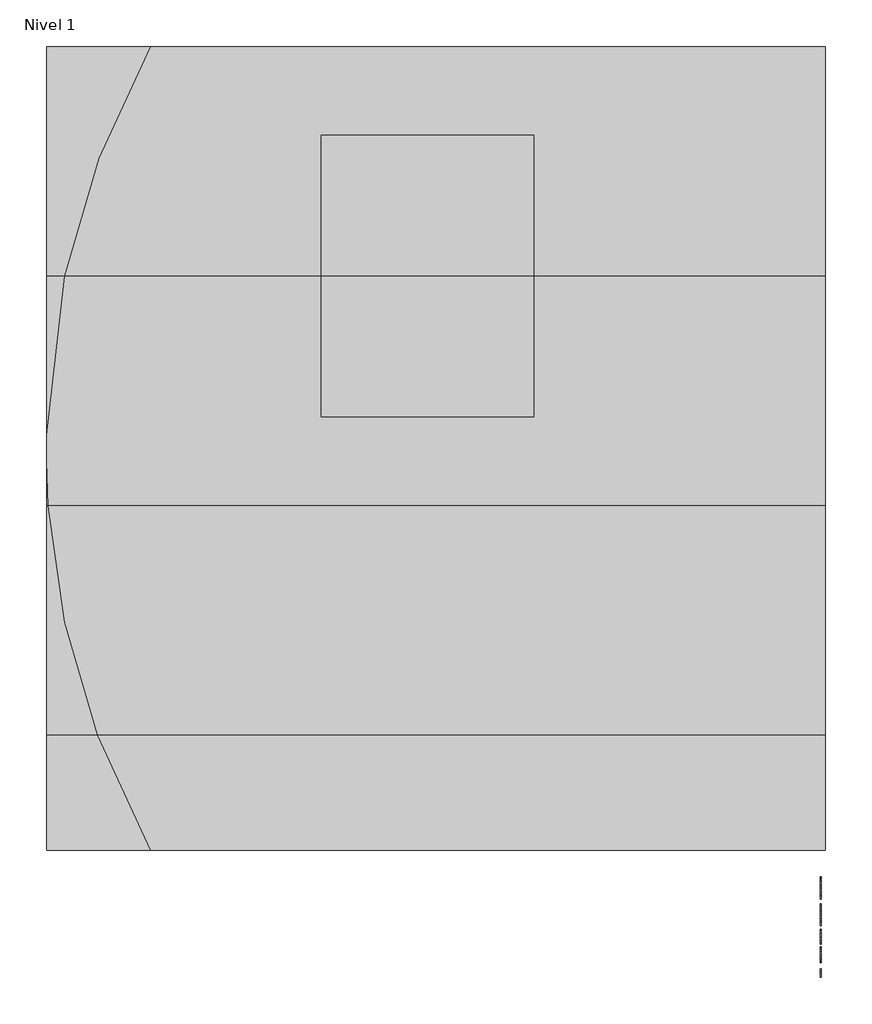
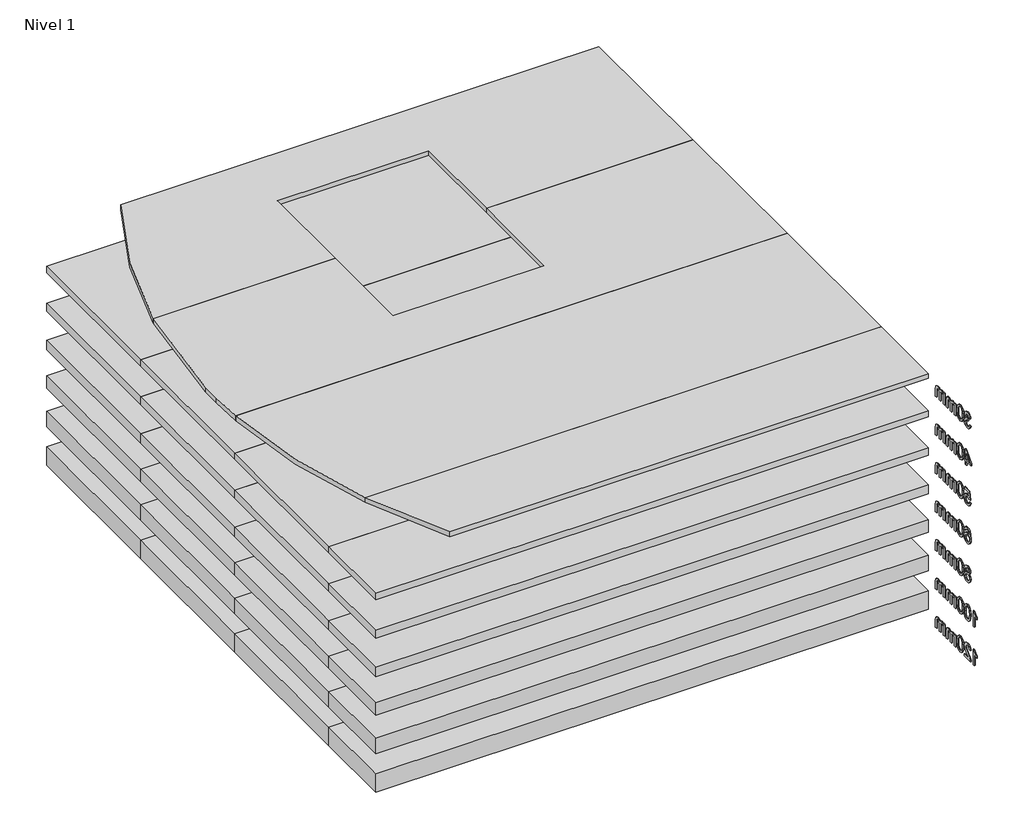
# One storey, incomplete: 28 plates, 7 proxies.
"""IFC4 building model written with IfcOpenShell, lengths in millimetres."""

from ifc_helpers import new_model, si_unit, frame, origin, place, context, project, spatial, polyline, outline, extrude, transform, mapped, element, save
from components import panel_del_sistema_d493ad30, panel_del_sistema_48dafe26, panel_del_sistema_6634fb51, panel_del_sistema_deb14117, panel_del_sistema_6d8fd6c0, panel_del_sistema_f4682724, panel_del_sistema_ddd7c84d, panel_del_sistema_1ec12507, panel_del_sistema_bfc47aa1, panel_del_sistema_156d538e, panel_del_sistema_4d6c30bc, panel_del_sistema_623d6d39, panel_del_sistema_14d703db, panel_del_sistema_e4207b6c, panel_del_sistema_6badf2b4, panel_del_sistema_0d385535

model = new_model("IFC4")

# Units and contexts
model_context = context("Model", 3, world=origin())
ifc_project = project(units=[si_unit("LENGTHUNIT", "METRE", prefix="MILLI")], contexts=[model_context])

# Site, building, storey
site = spatial("IfcSite", under=ifc_project)
building = spatial("IfcBuilding", under=site)
storey = spatial("IfcBuildingStorey", under=building, Name="Nivel 1", Elevation=0.0)

# Proxies
placement = place(None, origin())
element("IfcBuildingElementProxy", 1, Name="100mm Arial", ObjectType="100mm Arial", at=placement, inside=storey, context=model_context, shape_type="SweptSolid", body=[
    extrude(outline(polyline([(14811.6332666, -40.4578656), (14824.1903054, -38.8882358), (14831.1187496, -52.1074622), (14844.0804586, -56.1541641), (14852.6888973, -54.7623439), (14859.3352987, -50.5868832), (14865.0006814, -36.8035712), (14859.3843496, -23.8173367), (14845.1105282, -18.6792515), (14836.3058858, -20.0526776), (14837.7038373, -7.4956389), (14839.7149256, -7.6427917), (14853.9642215, -4.0375481), (14858.7098993, 0.5364513), (14860.2917918, 7.0479627), (14855.7055296, 16.8704119), (14843.8842549, 20.7576984), (14831.9158273, 16.8336237), (14825.7599352, 5.0613999), (14813.2028965, 6.6310297), (14816.9001105, 17.9066129), (14823.4790669, 26.3249792), (14832.479913, 31.5672976), (14843.4427965, 33.3147371), (14858.5872719, 29.8689091), (14869.1822734, 20.45113), (14872.8488306, 7.7837267), (14869.3662144, -3.7922935), (14859.0655185, -12.1064266), (14872.7507287, -20.6903398), (14877.5577201, -37.0243004), (14875.1542244, -49.2625081), (14867.9437373, -59.4896275), (14857.0605616, -66.405809), (14843.6390002, -68.7112029), (14831.4988943, -66.7430342), (14821.6151314, -60.8385282), (14814.7418695, -51.8070252), (14811.6332666, -40.4578656)])), frame((9557.0230098, 0.0, 0.0), z_axis=(1.0, 0.0, 0.0), x_axis=(0.0, 1.0, 0.0)), (0.0, 0.0, 1.0), 5.0),
    extrude(outline(polyline([(14888.5451291, -17.7227583), (14892.2362118, 11.1805037), (14903.1990952, 27.8455581), (14921.5073558, 33.3147371), (14936.1735847, 30.0773756), (14946.3026023, 20.7454356), (14952.1887142, 5.883003), (14954.4695826, -17.7227583), (14950.8152881, -46.5033931), (14939.8891929, -63.2052357), (14931.6578332, -67.3347111), (14921.5073558, -68.7112029), (14908.4598077, -66.3199699), (14898.5515193, -59.146271), (14891.0467266, -42.1562542), (14888.5451291, -17.7227583)]), holes=[polyline([(14901.1021678, -17.6982329), (14902.5736958, -37.4504303), (14906.9882798, -48.8823633), (14913.5611047, -54.3362139), (14921.5073558, -56.1541641), (14929.4536069, -54.3300825), (14936.0264319, -48.8578379), (14940.4410159, -37.4197735), (14941.9125438, -17.6982329), (14940.4900668, 1.6094405), (14936.2226356, 13.1302783), (14929.6620734, 18.8508433), (14921.360203, 20.7576984), (14913.4997911, 19.0777039), (14907.1844835, 14.0377206), (14902.6227467, 1.7995129), (14901.1021678, -17.6982329)])]), frame((9557.0230098, 0.0, 0.0), z_axis=(1.0, 0.0, 0.0), x_axis=(0.0, 1.0, 0.0)), (0.0, 0.0, 1.0), 5.0),
    extrude(outline(polyline([(14968.5962512, -67.141573), (14968.5962512, 6.6310297), (14981.15329, 6.6310297), (14981.15329, -5.5090761), (14989.7862541, 4.4360005), (15002.0735128, 8.2006596), (15014.655077, 4.3624241), (15021.5712585, -6.3919929), (15031.3691823, 4.5524965), (15043.7422801, 8.2006596), (15053.181519, 6.6831464), (15060.1620798, 2.1306067), (15064.4754962, -5.5795868), (15065.9133017, -16.5700614), (15065.9133017, -67.141573), (15053.3562629, -67.141573), (15053.3562629, -21.965664), (15052.1913033, -11.4810272), (15047.972923, -6.3184165), (15040.7992241, -4.3563792), (15028.4506518, -9.3840998), (15024.7626348, -15.9262679), (15023.5332958, -25.4973312), (15023.5332958, -67.141573), (15010.9762571, -67.141573), (15010.9762571, -20.5677124), (15008.0699893, -8.4030811), (14998.5418456, -4.3563792), (14989.2466939, -7.0541805), (14983.0662764, -14.9513806), (14981.15329, -29.9364406), (14981.15329, -67.141573), (14968.5962512, -67.141573)])), frame((9557.0230098, 0.0, 0.0), z_axis=(1.0, 0.0, 0.0), x_axis=(0.0, 1.0, 0.0)), (0.0, 0.0, 1.0), 5.0),
    extrude(outline(polyline([(15084.7488598, -67.141573), (15084.7488598, 6.6310297), (15097.3058986, 6.6310297), (15097.3058986, -5.5090761), (15105.9388628, 4.4360005), (15118.2261214, 8.2006596), (15130.8076856, 4.3624241), (15137.7238671, -6.3919929), (15147.5217909, 4.5524965), (15159.8948887, 8.2006596), (15169.3341276, 6.6831464), (15176.3146884, 2.1306067), (15180.6281048, -5.5795868), (15182.0659103, -16.5700614), (15182.0659103, -67.141573), (15169.5088715, -67.141573), (15169.5088715, -21.965664), (15168.3439119, -11.4810272), (15164.1255317, -6.3184165), (15156.9518327, -4.3563792), (15144.6032604, -9.3840998), (15140.9152434, -15.9262679), (15139.6859044, -25.4973312), (15139.6859044, -67.141573), (15127.1288657, -67.141573), (15127.1288657, -20.5677124), (15124.2225979, -8.4030811), (15114.6944542, -4.3563792), (15105.3993025, -7.0541805), (15099.218885, -14.9513806), (15097.3058986, -29.9364406), (15097.3058986, -67.141573), (15084.7488598, -67.141573)])), frame((9557.0230098, 0.0, 0.0), z_axis=(1.0, 0.0, 0.0), x_axis=(0.0, 1.0, 0.0)), (0.0, 0.0, 1.0), 5.0),
])
element("IfcBuildingElementProxy", 2, Name="100mm Arial", ObjectType="100mm Arial", at=placement, inside=storey, context=model_context, shape_type="SweptSolid", body=[
    extrude(outline(polyline([(14852.4436426, -317.141573), (14852.4436426, -293.5971253), (14806.9243771, -293.5971253), (14806.9243771, -281.0400866), (14855.5829023, -218.2548927), (14865.0006814, -218.2548927), (14865.0006814, -281.0400866), (14877.5577201, -281.0400866), (14877.5577201, -293.5971253), (14865.0006814, -293.5971253), (14865.0006814, -317.141573), (14852.4436426, -317.141573)]), holes=[polyline([(14852.4436426, -281.0400866), (14852.4436426, -242.2407988), (14822.3754209, -281.0400866), (14852.4436426, -281.0400866)])]), frame((9557.0230098, 0.0, 0.0), z_axis=(1.0, 0.0, 0.0), x_axis=(0.0, 1.0, 0.0)), (0.0, 0.0, 1.0), 5.0),
    extrude(outline(polyline([(14888.5451291, -267.7227583), (14892.2362118, -238.8194963), (14903.1990952, -222.1544419), (14921.5073558, -216.6852629), (14936.1735847, -219.9226244), (14946.3026023, -229.2545644), (14952.1887142, -244.116997), (14954.4695826, -267.7227583), (14950.8152881, -296.5033931), (14939.8891929, -313.2052357), (14931.6578332, -317.3347111), (14921.5073558, -318.7112029), (14908.4598077, -316.3199699), (14898.5515193, -309.146271), (14891.0467266, -292.1562542), (14888.5451291, -267.7227583)]), holes=[polyline([(14901.1021678, -267.6982329), (14902.5736958, -287.4504303), (14906.9882798, -298.8823633), (14913.5611047, -304.3362139), (14921.5073558, -306.1541641), (14929.4536069, -304.3300825), (14936.0264319, -298.8578379), (14940.4410159, -287.4197735), (14941.9125438, -267.6982329), (14940.4900668, -248.3905595), (14936.2226356, -236.8697217), (14929.6620734, -231.1491567), (14921.360203, -229.2423016), (14913.4997911, -230.9222961), (14907.1844835, -235.9622794), (14902.6227467, -248.2004871), (14901.1021678, -267.6982329)])]), frame((9557.0230098, 0.0, 0.0), z_axis=(1.0, 0.0, 0.0), x_axis=(0.0, 1.0, 0.0)), (0.0, 0.0, 1.0), 5.0),
    extrude(outline(polyline([(14968.5962512, -317.141573), (14968.5962512, -243.3689703), (14981.15329, -243.3689703), (14981.15329, -255.5090761), (14989.7862541, -245.5639995), (15002.0735128, -241.7993404), (15014.655077, -245.6375759), (15021.5712585, -256.3919929), (15031.3691823, -245.4475035), (15043.7422801, -241.7993404), (15053.181519, -243.3168536), (15060.1620798, -247.8693933), (15064.4754962, -255.5795868), (15065.9133017, -266.5700614), (15065.9133017, -317.141573), (15053.3562629, -317.141573), (15053.3562629, -271.965664), (15052.1913033, -261.4810272), (15047.972923, -256.3184165), (15040.7992241, -254.3563792), (15028.4506518, -259.3840998), (15024.7626348, -265.9262679), (15023.5332958, -275.4973312), (15023.5332958, -317.141573), (15010.9762571, -317.141573), (15010.9762571, -270.5677124), (15008.0699893, -258.4030811), (14998.5418456, -254.3563792), (14989.2466939, -257.0541805), (14983.0662764, -264.9513806), (14981.15329, -279.9364406), (14981.15329, -317.141573), (14968.5962512, -317.141573)])), frame((9557.0230098, 0.0, 0.0), z_axis=(1.0, 0.0, 0.0), x_axis=(0.0, 1.0, 0.0)), (0.0, 0.0, 1.0), 5.0),
    extrude(outline(polyline([(15084.7488598, -317.141573), (15084.7488598, -243.3689703), (15097.3058986, -243.3689703), (15097.3058986, -255.5090761), (15105.9388628, -245.5639995), (15118.2261214, -241.7993404), (15130.8076856, -245.6375759), (15137.7238671, -256.3919929), (15147.5217909, -245.4475035), (15159.8948887, -241.7993404), (15169.3341276, -243.3168536), (15176.3146884, -247.8693933), (15180.6281048, -255.5795868), (15182.0659103, -266.5700614), (15182.0659103, -317.141573), (15169.5088715, -317.141573), (15169.5088715, -271.965664), (15168.3439119, -261.4810272), (15164.1255317, -256.3184165), (15156.9518327, -254.3563792), (15144.6032604, -259.3840998), (15140.9152434, -265.9262679), (15139.6859044, -275.4973312), (15139.6859044, -317.141573), (15127.1288657, -317.141573), (15127.1288657, -270.5677124), (15124.2225979, -258.4030811), (15114.6944542, -254.3563792), (15105.3993025, -257.0541805), (15099.218885, -264.9513806), (15097.3058986, -279.9364406), (15097.3058986, -317.141573), (15084.7488598, -317.141573)])), frame((9557.0230098, 0.0, 0.0), z_axis=(1.0, 0.0, 0.0), x_axis=(0.0, 1.0, 0.0)), (0.0, 0.0, 1.0), 5.0),
])
element("IfcBuildingElementProxy", 3, Name="100mm Arial", ObjectType="100mm Arial", at=placement, inside=storey, context=model_context, shape_type="SweptSolid", body=[
    extrude(outline(polyline([(14811.6332666, -540.4578656), (14824.1903054, -538.8882358), (14830.5178757, -551.8254193), (14843.6390002, -556.1541641), (14852.6398463, -554.6489136), (14859.3843496, -550.1331621), (14863.5965984, -543.1280758), (14865.0006814, -534.1548208), (14859.7399688, -519.2433373), (14853.1334213, -515.141453), (14843.8352039, -513.7741583), (14832.8110068, -515.9569248), (14825.7599352, -521.6223075), (14813.2028965, -520.0526776), (14824.1903054, -468.2548927), (14872.8488306, -468.2548927), (14872.8488306, -480.8119315), (14834.3438484, -480.8119315), (14828.9727713, -508.4766575), (14837.9429606, -503.032004), (14847.3423456, -501.2171195), (14859.0747156, -503.467331), (14868.8143914, -510.2179656), (14875.371888, -520.5063988), (14877.5577201, -533.3700059), (14875.5895515, -545.9270446), (14869.6850454, -556.6691989), (14858.3788055, -565.7007019), (14843.5899493, -568.7112029), (14831.2567054, -566.7767567), (14821.4311904, -560.9734182), (14814.6958842, -551.9756378), (14811.6332666, -540.4578656)])), frame((9557.0230098, 0.0, 0.0), z_axis=(1.0, 0.0, 0.0), x_axis=(0.0, 1.0, 0.0)), (0.0, 0.0, 1.0), 5.0),
    extrude(outline(polyline([(14888.5451291, -517.7227583), (14892.2362118, -488.8194963), (14903.1990952, -472.1544419), (14921.5073558, -466.6852629), (14936.1735847, -469.9226244), (14946.3026023, -479.2545644), (14952.1887142, -494.116997), (14954.4695826, -517.7227583), (14950.8152881, -546.5033931), (14939.8891929, -563.2052357), (14931.6578332, -567.3347111), (14921.5073558, -568.7112029), (14908.4598077, -566.3199699), (14898.5515193, -559.146271), (14891.0467266, -542.1562542), (14888.5451291, -517.7227583)]), holes=[polyline([(14901.1021678, -517.6982329), (14902.5736958, -537.4504303), (14906.9882798, -548.8823633), (14913.5611047, -554.3362139), (14921.5073558, -556.1541641), (14929.4536069, -554.3300825), (14936.0264319, -548.8578379), (14940.4410159, -537.4197735), (14941.9125438, -517.6982329), (14940.4900668, -498.3905595), (14936.2226356, -486.8697217), (14929.6620734, -481.1491567), (14921.360203, -479.2423016), (14913.4997911, -480.9222961), (14907.1844835, -485.9622794), (14902.6227467, -498.2004871), (14901.1021678, -517.6982329)])]), frame((9557.0230098, 0.0, 0.0), z_axis=(1.0, 0.0, 0.0), x_axis=(0.0, 1.0, 0.0)), (0.0, 0.0, 1.0), 5.0),
    extrude(outline(polyline([(14968.5962512, -567.141573), (14968.5962512, -493.3689703), (14981.15329, -493.3689703), (14981.15329, -505.5090761), (14989.7862541, -495.5639995), (15002.0735128, -491.7993404), (15014.655077, -495.6375759), (15021.5712585, -506.3919929), (15031.3691823, -495.4475035), (15043.7422801, -491.7993404), (15053.181519, -493.3168536), (15060.1620798, -497.8693933), (15064.4754962, -505.5795868), (15065.9133017, -516.5700614), (15065.9133017, -567.141573), (15053.3562629, -567.141573), (15053.3562629, -521.965664), (15052.1913033, -511.4810272), (15047.972923, -506.3184165), (15040.7992241, -504.3563792), (15028.4506518, -509.3840998), (15024.7626348, -515.9262679), (15023.5332958, -525.4973312), (15023.5332958, -567.141573), (15010.9762571, -567.141573), (15010.9762571, -520.5677124), (15008.0699893, -508.4030811), (14998.5418456, -504.3563792), (14989.2466939, -507.0541805), (14983.0662764, -514.9513806), (14981.15329, -529.9364406), (14981.15329, -567.141573), (14968.5962512, -567.141573)])), frame((9557.0230098, 0.0, 0.0), z_axis=(1.0, 0.0, 0.0), x_axis=(0.0, 1.0, 0.0)), (0.0, 0.0, 1.0), 5.0),
    extrude(outline(polyline([(15084.7488598, -567.141573), (15084.7488598, -493.3689703), (15097.3058986, -493.3689703), (15097.3058986, -505.5090761), (15105.9388628, -495.5639995), (15118.2261214, -491.7993404), (15130.8076856, -495.6375759), (15137.7238671, -506.3919929), (15147.5217909, -495.4475035), (15159.8948887, -491.7993404), (15169.3341276, -493.3168536), (15176.3146884, -497.8693933), (15180.6281048, -505.5795868), (15182.0659103, -516.5700614), (15182.0659103, -567.141573), (15169.5088715, -567.141573), (15169.5088715, -521.965664), (15168.3439119, -511.4810272), (15164.1255317, -506.3184165), (15156.9518327, -504.3563792), (15144.6032604, -509.3840998), (15140.9152434, -515.9262679), (15139.6859044, -525.4973312), (15139.6859044, -567.141573), (15127.1288657, -567.141573), (15127.1288657, -520.5677124), (15124.2225979, -508.4030811), (15114.6944542, -504.3563792), (15105.3993025, -507.0541805), (15099.218885, -514.9513806), (15097.3058986, -529.9364406), (15097.3058986, -567.141573), (15084.7488598, -567.141573)])), frame((9557.0230098, 0.0, 0.0), z_axis=(1.0, 0.0, 0.0), x_axis=(0.0, 1.0, 0.0)), (0.0, 0.0, 1.0), 5.0),
])
element("IfcBuildingElementProxy", 4, Name="100mm Arial", ObjectType="100mm Arial", at=placement, inside=storey, context=model_context, shape_type="SweptSolid", body=[
    extrude(outline(polyline([(14875.9880903, -743.3689703), (14863.4310515, -744.9386001), (14858.6731111, -734.466226), (14846.0915468, -729.2423016), (14834.7607814, -732.2834595), (14826.1891309, -743.7000641), (14822.6206755, -766.0795521), (14833.6939236, -756.0608991), (14847.415922, -752.7867493), (14859.0164676, -755.0246981), (14868.7530777, -761.7385446), (14875.3565595, -771.9963209), (14877.5577201, -784.8660593), (14873.4129163, -802.1933013), (14862.0085745, -814.4560345), (14845.5519866, -818.7112029), (14831.3057563, -815.8907742), (14819.9596624, -807.4294884), (14812.5376432, -792.4934794), (14810.0636368, -770.2488814), (14812.810489, -745.2390371), (14821.0510457, -728.1386557), (14832.3021034, -719.5486111), (14846.8763617, -716.6852629), (14857.8944275, -718.4572278), (14866.717464, -723.7731227), (14872.8978815, -732.2160144), (14875.9880903, -743.3689703)]), holes=[polyline([(14822.6206755, -784.6698556), (14825.5269433, -795.5468999), (14833.2524652, -803.4441001), (14844.5709679, -806.1541641), (14852.8575099, -804.7500812), (14859.3720868, -800.5378323), (14863.5935327, -793.9159564), (14865.0006814, -785.2829922), (14863.6119268, -776.9964503), (14859.4456632, -770.678077), (14852.8207217, -766.6773603), (14844.0559331, -765.3437881), (14828.8624067, -770.678077), (14824.1811083, -776.8431661), (14822.6206755, -784.6698556)])]), frame((9557.0230098, 0.0, 0.0), z_axis=(1.0, 0.0, 0.0), x_axis=(0.0, 1.0, 0.0)), (0.0, 0.0, 1.0), 5.0),
    extrude(outline(polyline([(14888.5451291, -767.7227583), (14892.2362118, -738.8194963), (14903.1990952, -722.1544419), (14921.5073558, -716.6852629), (14936.1735847, -719.9226244), (14946.3026023, -729.2545644), (14952.1887142, -744.116997), (14954.4695826, -767.7227583), (14950.8152881, -796.5033931), (14939.8891929, -813.2052357), (14931.6578332, -817.3347111), (14921.5073558, -818.7112029), (14908.4598077, -816.3199699), (14898.5515193, -809.146271), (14891.0467266, -792.1562542), (14888.5451291, -767.7227583)]), holes=[polyline([(14901.1021678, -767.6982329), (14902.5736958, -787.4504303), (14906.9882798, -798.8823633), (14913.5611047, -804.3362139), (14921.5073558, -806.1541641), (14929.4536069, -804.3300825), (14936.0264319, -798.8578379), (14940.4410159, -787.4197735), (14941.9125438, -767.6982329), (14940.4900668, -748.3905595), (14936.2226356, -736.8697217), (14929.6620734, -731.1491567), (14921.360203, -729.2423016), (14913.4997911, -730.9222961), (14907.1844835, -735.9622794), (14902.6227467, -748.2004871), (14901.1021678, -767.6982329)])]), frame((9557.0230098, 0.0, 0.0), z_axis=(1.0, 0.0, 0.0), x_axis=(0.0, 1.0, 0.0)), (0.0, 0.0, 1.0), 5.0),
    extrude(outline(polyline([(14968.5962512, -817.141573), (14968.5962512, -743.3689703), (14981.15329, -743.3689703), (14981.15329, -755.5090761), (14989.7862541, -745.5639995), (15002.0735128, -741.7993404), (15014.655077, -745.6375759), (15021.5712585, -756.3919929), (15031.3691823, -745.4475035), (15043.7422801, -741.7993404), (15053.181519, -743.3168536), (15060.1620798, -747.8693933), (15064.4754962, -755.5795868), (15065.9133017, -766.5700614), (15065.9133017, -817.141573), (15053.3562629, -817.141573), (15053.3562629, -771.965664), (15052.1913033, -761.4810272), (15047.972923, -756.3184165), (15040.7992241, -754.3563792), (15028.4506518, -759.3840998), (15024.7626348, -765.9262679), (15023.5332958, -775.4973312), (15023.5332958, -817.141573), (15010.9762571, -817.141573), (15010.9762571, -770.5677124), (15008.0699893, -758.4030811), (14998.5418456, -754.3563792), (14989.2466939, -757.0541805), (14983.0662764, -764.9513806), (14981.15329, -779.9364406), (14981.15329, -817.141573), (14968.5962512, -817.141573)])), frame((9557.0230098, 0.0, 0.0), z_axis=(1.0, 0.0, 0.0), x_axis=(0.0, 1.0, 0.0)), (0.0, 0.0, 1.0), 5.0),
    extrude(outline(polyline([(15084.7488598, -817.141573), (15084.7488598, -743.3689703), (15097.3058986, -743.3689703), (15097.3058986, -755.5090761), (15105.9388628, -745.5639995), (15118.2261214, -741.7993404), (15130.8076856, -745.6375759), (15137.7238671, -756.3919929), (15147.5217909, -745.4475035), (15159.8948887, -741.7993404), (15169.3341276, -743.3168536), (15176.3146884, -747.8693933), (15180.6281048, -755.5795868), (15182.0659103, -766.5700614), (15182.0659103, -817.141573), (15169.5088715, -817.141573), (15169.5088715, -771.965664), (15168.3439119, -761.4810272), (15164.1255317, -756.3184165), (15156.9518327, -754.3563792), (15144.6032604, -759.3840998), (15140.9152434, -765.9262679), (15139.6859044, -775.4973312), (15139.6859044, -817.141573), (15127.1288657, -817.141573), (15127.1288657, -770.5677124), (15124.2225979, -758.4030811), (15114.6944542, -754.3563792), (15105.3993025, -757.0541805), (15099.218885, -764.9513806), (15097.3058986, -779.9364406), (15097.3058986, -817.141573), (15084.7488598, -817.141573)])), frame((9557.0230098, 0.0, 0.0), z_axis=(1.0, 0.0, 0.0), x_axis=(0.0, 1.0, 0.0)), (0.0, 0.0, 1.0), 5.0),
])
element("IfcBuildingElementProxy", 5, Name="100mm Arial", ObjectType="100mm Arial", at=placement, inside=storey, context=model_context, shape_type="SweptSolid", body=[
    extrude(outline(polyline([(14829.9292645, -1011.812121), (14818.4881345, -1004.0130227), (14814.7725263, -991.8729168), (14816.7958773, -982.0565989), (14822.8659302, -973.9448009), (14832.3021034, -968.5001474), (14844.4238151, -966.6852629), (14856.6191033, -968.543067), (14866.1779038, -974.1164792), (14872.3583213, -982.3570359), (14874.4184605, -992.2162733), (14870.7519032, -1004.0498109), (14859.6296042, -1011.812121), (14872.9837207, -1021.6590957), (14877.5577201, -1037.9072171), (14875.2891145, -1049.9124329), (14868.4832976, -1059.8329841), (14857.9741353, -1066.4916482), (14844.5954934, -1068.7112029), (14831.2168515, -1066.4824511), (14820.7076892, -1059.7961959), (14813.9018722, -1049.7806085), (14811.6332666, -1037.5638606), (14816.3912071, -1020.9355944), (14829.9292645, -1011.812121)]), holes=[polyline([(14824.1903054, -1037.1224022), (14826.2872328, -1046.5769695), (14833.7061863, -1053.6525665), (14844.6935952, -1056.1541641), (14853.2407203, -1054.838986), (14859.6541297, -1050.8934516), (14865.0006814, -1037.5148097), (14859.4824514, -1023.8786504), (14852.9218892, -1019.8319485), (14844.2766623, -1018.4830478), (14835.8490989, -1019.8135544), (14829.5000688, -1023.805074), (14824.1903054, -1037.1224022)]), polyline([(14827.3295651, -992.2407988), (14831.7809372, -1002.1000363), (14844.7426462, -1005.926009), (14857.4468377, -1002.1245617), (14861.8614217, -992.8048845), (14857.2996849, -983.1541135), (14844.5954934, -979.2423016), (14831.8545136, -983.0682744), (14827.3295651, -992.2407988)])]), frame((9557.0230098, 0.0, 0.0), z_axis=(1.0, 0.0, 0.0), x_axis=(0.0, 1.0, 0.0)), (0.0, 0.0, 1.0), 5.0),
    extrude(outline(polyline([(14888.5451291, -1017.7227583), (14892.2362118, -988.8194963), (14903.1990952, -972.1544419), (14921.5073558, -966.6852629), (14936.1735847, -969.9226244), (14946.3026023, -979.2545644), (14952.1887142, -994.116997), (14954.4695826, -1017.7227583), (14950.8152881, -1046.5033931), (14939.8891929, -1063.2052357), (14931.6578332, -1067.3347111), (14921.5073558, -1068.7112029), (14908.4598077, -1066.3199699), (14898.5515193, -1059.146271), (14891.0467266, -1042.1562542), (14888.5451291, -1017.7227583)]), holes=[polyline([(14901.1021678, -1017.6982329), (14902.5736958, -1037.4504303), (14906.9882798, -1048.8823633), (14913.5611047, -1054.3362139), (14921.5073558, -1056.1541641), (14929.4536069, -1054.3300825), (14936.0264319, -1048.8578379), (14940.4410159, -1037.4197735), (14941.9125438, -1017.6982329), (14940.4900668, -998.3905595), (14936.2226356, -986.8697217), (14929.6620734, -981.1491567), (14921.360203, -979.2423016), (14913.4997911, -980.9222961), (14907.1844835, -985.9622794), (14902.6227467, -998.2004871), (14901.1021678, -1017.6982329)])]), frame((9557.0230098, 0.0, 0.0), z_axis=(1.0, 0.0, 0.0), x_axis=(0.0, 1.0, 0.0)), (0.0, 0.0, 1.0), 5.0),
    extrude(outline(polyline([(14968.5962512, -1067.141573), (14968.5962512, -993.3689703), (14981.15329, -993.3689703), (14981.15329, -1005.5090761), (14989.7862541, -995.5639995), (15002.0735128, -991.7993404), (15014.655077, -995.6375759), (15021.5712585, -1006.3919929), (15031.3691823, -995.4475035), (15043.7422801, -991.7993404), (15053.181519, -993.3168536), (15060.1620798, -997.8693933), (15064.4754962, -1005.5795868), (15065.9133017, -1016.5700614), (15065.9133017, -1067.141573), (15053.3562629, -1067.141573), (15053.3562629, -1021.965664), (15052.1913033, -1011.4810272), (15047.972923, -1006.3184165), (15040.7992241, -1004.3563792), (15028.4506518, -1009.3840998), (15024.7626348, -1015.9262679), (15023.5332958, -1025.4973312), (15023.5332958, -1067.141573), (15010.9762571, -1067.141573), (15010.9762571, -1020.5677124), (15008.0699893, -1008.4030811), (14998.5418456, -1004.3563792), (14989.2466939, -1007.0541805), (14983.0662764, -1014.9513806), (14981.15329, -1029.9364406), (14981.15329, -1067.141573), (14968.5962512, -1067.141573)])), frame((9557.0230098, 0.0, 0.0), z_axis=(1.0, 0.0, 0.0), x_axis=(0.0, 1.0, 0.0)), (0.0, 0.0, 1.0), 5.0),
    extrude(outline(polyline([(15084.7488598, -1067.141573), (15084.7488598, -993.3689703), (15097.3058986, -993.3689703), (15097.3058986, -1005.5090761), (15105.9388628, -995.5639995), (15118.2261214, -991.7993404), (15130.8076856, -995.6375759), (15137.7238671, -1006.3919929), (15147.5217909, -995.4475035), (15159.8948887, -991.7993404), (15169.3341276, -993.3168536), (15176.3146884, -997.8693933), (15180.6281048, -1005.5795868), (15182.0659103, -1016.5700614), (15182.0659103, -1067.141573), (15169.5088715, -1067.141573), (15169.5088715, -1021.965664), (15168.3439119, -1011.4810272), (15164.1255317, -1006.3184165), (15156.9518327, -1004.3563792), (15144.6032604, -1009.3840998), (15140.9152434, -1015.9262679), (15139.6859044, -1025.4973312), (15139.6859044, -1067.141573), (15127.1288657, -1067.141573), (15127.1288657, -1020.5677124), (15124.2225979, -1008.4030811), (15114.6944542, -1004.3563792), (15105.3993025, -1007.0541805), (15099.218885, -1014.9513806), (15097.3058986, -1029.9364406), (15097.3058986, -1067.141573), (15084.7488598, -1067.141573)])), frame((9557.0230098, 0.0, 0.0), z_axis=(1.0, 0.0, 0.0), x_axis=(0.0, 1.0, 0.0)), (0.0, 0.0, 1.0), 5.0),
])
element("IfcBuildingElementProxy", 6, Name="100mm Arial", ObjectType="100mm Arial", at=placement, inside=storey, context=model_context, shape_type="SweptSolid", body=[
    extrude(outline(polyline([(14781.8102995, -1317.141573), (14769.2532608, -1317.141573), (14769.2532608, -1238.8562845), (14757.3584096, -1247.3298331), (14744.1391832, -1253.6696661), (14744.1391832, -1241.7993404), (14762.5455457, -1230.051642), (14773.7168956, -1216.6852629), (14781.8102995, -1216.6852629), (14781.8102995, -1317.141573)])), frame((9557.0230098, 0.0, 0.0), z_axis=(1.0, 0.0, 0.0), x_axis=(0.0, 1.0, 0.0)), (0.0, 0.0, 1.0), 5.0),
    extrude(outline(polyline([(14811.6332666, -1267.7227583), (14815.3243493, -1238.8194963), (14826.2872328, -1222.1544419), (14844.5954934, -1216.6852629), (14859.2617223, -1219.9226244), (14869.3907399, -1229.2545644), (14875.2768518, -1244.116997), (14877.5577201, -1267.7227583), (14873.9034257, -1296.5033931), (14862.9773304, -1313.2052357), (14854.7459708, -1317.3347111), (14844.5954934, -1318.7112029), (14831.5479453, -1316.3199699), (14821.6396569, -1309.146271), (14814.1348642, -1292.1562542), (14811.6332666, -1267.7227583)]), holes=[polyline([(14824.1903054, -1267.6982329), (14825.6618334, -1287.4504303), (14830.0764173, -1298.8823633), (14836.6492423, -1304.3362139), (14844.5954934, -1306.1541641), (14852.5417445, -1304.3300825), (14859.1145695, -1298.8578379), (14863.5291534, -1287.4197735), (14865.0006814, -1267.6982329), (14863.5782043, -1248.3905595), (14859.3107732, -1236.8697217), (14852.7502109, -1231.1491567), (14844.4483406, -1229.2423016), (14836.5879286, -1230.9222961), (14830.272621, -1235.9622794), (14825.7108843, -1248.2004871), (14824.1903054, -1267.6982329)])]), frame((9557.0230098, 0.0, 0.0), z_axis=(1.0, 0.0, 0.0), x_axis=(0.0, 1.0, 0.0)), (0.0, 0.0, 1.0), 5.0),
    extrude(outline(polyline([(14888.5451291, -1267.7227583), (14892.2362118, -1238.8194963), (14903.1990952, -1222.1544419), (14921.5073558, -1216.6852629), (14936.1735847, -1219.9226244), (14946.3026023, -1229.2545644), (14952.1887142, -1244.116997), (14954.4695826, -1267.7227583), (14950.8152881, -1296.5033931), (14939.8891929, -1313.2052357), (14931.6578332, -1317.3347111), (14921.5073558, -1318.7112029), (14908.4598077, -1316.3199699), (14898.5515193, -1309.146271), (14891.0467266, -1292.1562542), (14888.5451291, -1267.7227583)]), holes=[polyline([(14901.1021678, -1267.6982329), (14902.5736958, -1287.4504303), (14906.9882798, -1298.8823633), (14913.5611047, -1304.3362139), (14921.5073558, -1306.1541641), (14929.4536069, -1304.3300825), (14936.0264319, -1298.8578379), (14940.4410159, -1287.4197735), (14941.9125438, -1267.6982329), (14940.4900668, -1248.3905595), (14936.2226356, -1236.8697217), (14929.6620734, -1231.1491567), (14921.360203, -1229.2423016), (14913.4997911, -1230.9222961), (14907.1844835, -1235.9622794), (14902.6227467, -1248.2004871), (14901.1021678, -1267.6982329)])]), frame((9557.0230098, 0.0, 0.0), z_axis=(1.0, 0.0, 0.0), x_axis=(0.0, 1.0, 0.0)), (0.0, 0.0, 1.0), 5.0),
    extrude(outline(polyline([(14968.5962512, -1317.141573), (14968.5962512, -1243.3689703), (14981.15329, -1243.3689703), (14981.15329, -1255.5090761), (14989.7862541, -1245.5639995), (15002.0735128, -1241.7993404), (15014.655077, -1245.6375759), (15021.5712585, -1256.3919929), (15031.3691823, -1245.4475035), (15043.7422801, -1241.7993404), (15053.181519, -1243.3168536), (15060.1620798, -1247.8693933), (15064.4754962, -1255.5795868), (15065.9133017, -1266.5700614), (15065.9133017, -1317.141573), (15053.3562629, -1317.141573), (15053.3562629, -1271.965664), (15052.1913033, -1261.4810272), (15047.972923, -1256.3184165), (15040.7992241, -1254.3563792), (15028.4506518, -1259.3840998), (15024.7626348, -1265.9262679), (15023.5332958, -1275.4973312), (15023.5332958, -1317.141573), (15010.9762571, -1317.141573), (15010.9762571, -1270.5677124), (15008.0699893, -1258.4030811), (14998.5418456, -1254.3563792), (14989.2466939, -1257.0541805), (14983.0662764, -1264.9513806), (14981.15329, -1279.9364406), (14981.15329, -1317.141573), (14968.5962512, -1317.141573)])), frame((9557.0230098, 0.0, 0.0), z_axis=(1.0, 0.0, 0.0), x_axis=(0.0, 1.0, 0.0)), (0.0, 0.0, 1.0), 5.0),
    extrude(outline(polyline([(15084.7488598, -1317.141573), (15084.7488598, -1243.3689703), (15097.3058986, -1243.3689703), (15097.3058986, -1255.5090761), (15105.9388628, -1245.5639995), (15118.2261214, -1241.7993404), (15130.8076856, -1245.6375759), (15137.7238671, -1256.3919929), (15147.5217909, -1245.4475035), (15159.8948887, -1241.7993404), (15169.3341276, -1243.3168536), (15176.3146884, -1247.8693933), (15180.6281048, -1255.5795868), (15182.0659103, -1266.5700614), (15182.0659103, -1317.141573), (15169.5088715, -1317.141573), (15169.5088715, -1271.965664), (15168.3439119, -1261.4810272), (15164.1255317, -1256.3184165), (15156.9518327, -1254.3563792), (15144.6032604, -1259.3840998), (15140.9152434, -1265.9262679), (15139.6859044, -1275.4973312), (15139.6859044, -1317.141573), (15127.1288657, -1317.141573), (15127.1288657, -1270.5677124), (15124.2225979, -1258.4030811), (15114.6944542, -1254.3563792), (15105.3993025, -1257.0541805), (15099.218885, -1264.9513806), (15097.3058986, -1279.9364406), (15097.3058986, -1317.141573), (15084.7488598, -1317.141573)])), frame((9557.0230098, 0.0, 0.0), z_axis=(1.0, 0.0, 0.0), x_axis=(0.0, 1.0, 0.0)), (0.0, 0.0, 1.0), 5.0),
])
element("IfcBuildingElementProxy", 7, Name="100mm Arial", ObjectType="100mm Arial", at=placement, inside=storey, context=model_context, shape_type="SweptSolid", body=[
    extrude(outline(polyline([(14781.8102995, -1567.141573), (14769.2532608, -1567.141573), (14769.2532608, -1488.8562845), (14757.3584096, -1497.3298331), (14744.1391832, -1503.6696661), (14744.1391832, -1491.7993404), (14762.5455457, -1480.051642), (14773.7168956, -1466.6852629), (14781.8102995, -1466.6852629), (14781.8102995, -1567.141573)])), frame((9557.0230098, 0.0, 0.0), z_axis=(1.0, 0.0, 0.0), x_axis=(0.0, 1.0, 0.0)), (0.0, 0.0, 1.0), 5.0),
    extrude(outline(polyline([(14875.9880903, -1554.5845343), (14875.9880903, -1567.141573), (14810.0636368, -1567.141573), (14811.4125374, -1558.4840834), (14819.0399574, -1545.1544925), (14834.7607814, -1530.5986282), (14856.4412936, -1509.6784054), (14861.8614217, -1495.4536349), (14856.747862, -1483.9389285), (14843.3937455, -1479.2423016), (14829.4755434, -1483.8285639), (14824.1903054, -1496.50823), (14811.6332666, -1494.9386001), (14814.6774901, -1482.7923629), (14821.2595121, -1473.9202755), (14831.0359762, -1468.494016), (14843.6635257, -1466.6852629), (14856.3830456, -1468.6963511), (14866.1411156, -1474.7296158), (14872.3491242, -1483.7427247), (14874.4184605, -1494.6933454), (14872.186643, -1506.6004594), (14864.7676894, -1518.9122435), (14846.7782599, -1536.1168581), (14832.3327602, -1548.1956503), (14826.6673775, -1554.5845343), (14875.9880903, -1554.5845343)])), frame((9557.0230098, 0.0, 0.0), z_axis=(1.0, 0.0, 0.0), x_axis=(0.0, 1.0, 0.0)), (0.0, 0.0, 1.0), 5.0),
    extrude(outline(polyline([(14888.5451291, -1517.7227583), (14892.2362118, -1488.8194963), (14903.1990952, -1472.1544419), (14921.5073558, -1466.6852629), (14936.1735847, -1469.9226244), (14946.3026023, -1479.2545644), (14952.1887142, -1494.116997), (14954.4695826, -1517.7227583), (14950.8152881, -1546.5033931), (14939.8891929, -1563.2052357), (14931.6578332, -1567.3347111), (14921.5073558, -1568.7112029), (14908.4598077, -1566.3199699), (14898.5515193, -1559.146271), (14891.0467266, -1542.1562542), (14888.5451291, -1517.7227583)]), holes=[polyline([(14901.1021678, -1517.6982329), (14902.5736958, -1537.4504303), (14906.9882798, -1548.8823633), (14913.5611047, -1554.3362139), (14921.5073558, -1556.1541641), (14929.4536069, -1554.3300825), (14936.0264319, -1548.8578379), (14940.4410159, -1537.4197735), (14941.9125438, -1517.6982329), (14940.4900668, -1498.3905595), (14936.2226356, -1486.8697217), (14929.6620734, -1481.1491567), (14921.360203, -1479.2423016), (14913.4997911, -1480.9222961), (14907.1844835, -1485.9622794), (14902.6227467, -1498.2004871), (14901.1021678, -1517.6982329)])]), frame((9557.0230098, 0.0, 0.0), z_axis=(1.0, 0.0, 0.0), x_axis=(0.0, 1.0, 0.0)), (0.0, 0.0, 1.0), 5.0),
    extrude(outline(polyline([(14968.5962512, -1567.141573), (14968.5962512, -1493.3689703), (14981.15329, -1493.3689703), (14981.15329, -1505.5090761), (14989.7862541, -1495.5639995), (15002.0735128, -1491.7993404), (15014.655077, -1495.6375759), (15021.5712585, -1506.3919929), (15031.3691823, -1495.4475035), (15043.7422801, -1491.7993404), (15053.181519, -1493.3168536), (15060.1620798, -1497.8693933), (15064.4754962, -1505.5795868), (15065.9133017, -1516.5700614), (15065.9133017, -1567.141573), (15053.3562629, -1567.141573), (15053.3562629, -1521.965664), (15052.1913033, -1511.4810272), (15047.972923, -1506.3184165), (15040.7992241, -1504.3563792), (15028.4506518, -1509.3840998), (15024.7626348, -1515.9262679), (15023.5332958, -1525.4973312), (15023.5332958, -1567.141573), (15010.9762571, -1567.141573), (15010.9762571, -1520.5677124), (15008.0699893, -1508.4030811), (14998.5418456, -1504.3563792), (14989.2466939, -1507.0541805), (14983.0662764, -1514.9513806), (14981.15329, -1529.9364406), (14981.15329, -1567.141573), (14968.5962512, -1567.141573)])), frame((9557.0230098, 0.0, 0.0), z_axis=(1.0, 0.0, 0.0), x_axis=(0.0, 1.0, 0.0)), (0.0, 0.0, 1.0), 5.0),
    extrude(outline(polyline([(15084.7488598, -1567.141573), (15084.7488598, -1493.3689703), (15097.3058986, -1493.3689703), (15097.3058986, -1505.5090761), (15105.9388628, -1495.5639995), (15118.2261214, -1491.7993404), (15130.8076856, -1495.6375759), (15137.7238671, -1506.3919929), (15147.5217909, -1495.4475035), (15159.8948887, -1491.7993404), (15169.3341276, -1493.3168536), (15176.3146884, -1497.8693933), (15180.6281048, -1505.5795868), (15182.0659103, -1516.5700614), (15182.0659103, -1567.141573), (15169.5088715, -1567.141573), (15169.5088715, -1521.965664), (15168.3439119, -1511.4810272), (15164.1255317, -1506.3184165), (15156.9518327, -1504.3563792), (15144.6032604, -1509.3840998), (15140.9152434, -1515.9262679), (15139.6859044, -1525.4973312), (15139.6859044, -1567.141573), (15127.1288657, -1567.141573), (15127.1288657, -1520.5677124), (15124.2225979, -1508.4030811), (15114.6944542, -1504.3563792), (15105.3993025, -1507.0541805), (15099.218885, -1514.9513806), (15097.3058986, -1529.9364406), (15097.3058986, -1567.141573), (15084.7488598, -1567.141573)])), frame((9557.0230098, 0.0, 0.0), z_axis=(1.0, 0.0, 0.0), x_axis=(0.0, 1.0, 0.0)), (0.0, 0.0, 1.0), 5.0),
])

# Plates
panel_del_sistema_shape = panel_del_sistema_d493ad30(model_context)
element("IfcPlate", 8, ObjectType="Panel del sistema : HIANSA PANEL - PANELES DE CUBIERTA CON TAPAJUNTA - CUB 3GR - Esp. 40mm", at=placement, inside=storey, context=model_context, shape_type="MappedRepresentation", body=[
    mapped(panel_del_sistema_shape, transform((9579.0356399, 18298.3330794, -279.5990172), x_axis=(0.0, -1.0, 0.0), y_axis=(0.0, 0.0, 1.0), z_axis=(-1.0, 0.0, 0.0))),
])
element("IfcPlate", 9, ObjectType="Panel del sistema : HIANSA PANEL - PANELES DE CUBIERTA CON TAPAJUNTA - CUB 3GR - Esp. 40mm", at=placement, inside=storey, context=model_context, shape_type="MappedRepresentation", body=[
    mapped(panel_del_sistema_shape, transform((9579.0356399, 17298.3330793, -279.5990172), x_axis=(0.0, -1.0, 0.0), y_axis=(0.0, 0.0, 1.0), z_axis=(-1.0, 0.0, 0.0))),
])
element("IfcPlate", 10, ObjectType="Panel del sistema : HIANSA PANEL - PANELES DE CUBIERTA CON TAPAJUNTA - CUB 3GR - Esp. 40mm", at=placement, inside=storey, context=model_context, shape_type="MappedRepresentation", body=[
    mapped(panel_del_sistema_shape, transform((9579.0356399, 16298.3330793, -279.5990172), x_axis=(0.0, -1.0, 0.0), y_axis=(0.0, 0.0, 1.0), z_axis=(-1.0, 0.0, 0.0))),
])
panel_del_sistema_2_shape = panel_del_sistema_48dafe26(model_context)
element("IfcPlate", 11, ObjectType="Panel del sistema : HIANSA PANEL - PANELES DE CUBIERTA CON TAPAJUNTA - CUB 3GR - Esp. 40mm", at=placement, inside=storey, context=model_context, shape_type="MappedRepresentation", body=[
    mapped(panel_del_sistema_2_shape, transform((9579.0356399, 15548.3330794, -279.5990172), x_axis=(0.0, -1.0, 0.0), y_axis=(0.0, 0.0, 1.0), z_axis=(-1.0, 0.0, 0.0))),
])
panel_del_sistema_3_shape = panel_del_sistema_6634fb51(model_context)
element("IfcPlate", 12, ObjectType="Panel del sistema : HIANSA PANEL - PANELES DE CUBIERTA CON TAPAJUNTA - CUB 3GR - Esp. 50mm", at=placement, inside=storey, context=model_context, shape_type="MappedRepresentation", body=[
    mapped(panel_del_sistema_3_shape, transform((9579.0356399, 18298.3330794, -529.5962409), x_axis=(0.0, -1.0, 0.0), y_axis=(0.0, 0.0, 1.0), z_axis=(-1.0, 0.0, 0.0))),
])
element("IfcPlate", 13, ObjectType="Panel del sistema : HIANSA PANEL - PANELES DE CUBIERTA CON TAPAJUNTA - CUB 3GR - Esp. 50mm", at=placement, inside=storey, context=model_context, shape_type="MappedRepresentation", body=[
    mapped(panel_del_sistema_3_shape, transform((9579.0356399, 17298.3330793, -529.5962409), x_axis=(0.0, -1.0, 0.0), y_axis=(0.0, 0.0, 1.0), z_axis=(-1.0, 0.0, 0.0))),
])
element("IfcPlate", 14, ObjectType="Panel del sistema : HIANSA PANEL - PANELES DE CUBIERTA CON TAPAJUNTA - CUB 3GR - Esp. 50mm", at=placement, inside=storey, context=model_context, shape_type="MappedRepresentation", body=[
    mapped(panel_del_sistema_3_shape, transform((9579.0356399, 16298.3330793, -529.5962409), x_axis=(0.0, -1.0, 0.0), y_axis=(0.0, 0.0, 1.0), z_axis=(-1.0, 0.0, 0.0))),
])
panel_del_sistema_4_shape = panel_del_sistema_deb14117(model_context)
element("IfcPlate", 15, ObjectType="Panel del sistema : HIANSA PANEL - PANELES DE CUBIERTA CON TAPAJUNTA - CUB 3GR - Esp. 50mm", at=placement, inside=storey, context=model_context, shape_type="MappedRepresentation", body=[
    mapped(panel_del_sistema_4_shape, transform((9579.0356399, 15548.3330794, -529.5962409), x_axis=(0.0, -1.0, 0.0), y_axis=(0.0, 0.0, 1.0), z_axis=(-1.0, 0.0, 0.0))),
])
panel_del_sistema_5_shape = panel_del_sistema_6d8fd6c0(model_context)
element("IfcPlate", 16, ObjectType="Panel del sistema : HIANSA PANEL - PANELES DE CUBIERTA CON TAPAJUNTA - CUB 3GR - Esp. 60mm", at=placement, inside=storey, context=model_context, shape_type="MappedRepresentation", body=[
    mapped(panel_del_sistema_5_shape, transform((9579.0356399, 18298.3330794, -779.5962409), x_axis=(0.0, -1.0, 0.0), y_axis=(0.0, 0.0, 1.0), z_axis=(-1.0, 0.0, 0.0))),
])
element("IfcPlate", 17, ObjectType="Panel del sistema : HIANSA PANEL - PANELES DE CUBIERTA CON TAPAJUNTA - CUB 3GR - Esp. 60mm", at=placement, inside=storey, context=model_context, shape_type="MappedRepresentation", body=[
    mapped(panel_del_sistema_5_shape, transform((9579.0356399, 17298.3330793, -779.5962409), x_axis=(0.0, -1.0, 0.0), y_axis=(0.0, 0.0, 1.0), z_axis=(-1.0, 0.0, 0.0))),
])
element("IfcPlate", 18, ObjectType="Panel del sistema : HIANSA PANEL - PANELES DE CUBIERTA CON TAPAJUNTA - CUB 3GR - Esp. 60mm", at=placement, inside=storey, context=model_context, shape_type="MappedRepresentation", body=[
    mapped(panel_del_sistema_5_shape, transform((9579.0356399, 16298.3330793, -779.5962409), x_axis=(0.0, -1.0, 0.0), y_axis=(0.0, 0.0, 1.0), z_axis=(-1.0, 0.0, 0.0))),
])
panel_del_sistema_6_shape = panel_del_sistema_f4682724(model_context)
element("IfcPlate", 19, ObjectType="Panel del sistema : HIANSA PANEL - PANELES DE CUBIERTA CON TAPAJUNTA - CUB 3GR - Esp. 60mm", at=placement, inside=storey, context=model_context, shape_type="MappedRepresentation", body=[
    mapped(panel_del_sistema_6_shape, transform((9579.0356399, 15548.3330794, -779.5962409), x_axis=(0.0, -1.0, 0.0), y_axis=(0.0, 0.0, 1.0), z_axis=(-1.0, 0.0, 0.0))),
])
panel_del_sistema_7_shape = panel_del_sistema_ddd7c84d(model_context)
element("IfcPlate", 20, ObjectType="Panel del sistema : HIANSA PANEL - PANELES DE CUBIERTA CON TAPAJUNTA - CUB 3GR - Esp. 80mm", at=placement, inside=storey, context=model_context, shape_type="MappedRepresentation", body=[
    mapped(panel_del_sistema_7_shape, transform((9579.0356399, 18298.3330794, -1029.5962409), x_axis=(0.0, -1.0, 0.0), y_axis=(0.0, 0.0, 1.0), z_axis=(-1.0, 0.0, 0.0))),
])
element("IfcPlate", 21, ObjectType="Panel del sistema : HIANSA PANEL - PANELES DE CUBIERTA CON TAPAJUNTA - CUB 3GR - Esp. 80mm", at=placement, inside=storey, context=model_context, shape_type="MappedRepresentation", body=[
    mapped(panel_del_sistema_7_shape, transform((9579.0356399, 17298.3330793, -1029.5962409), x_axis=(0.0, -1.0, 0.0), y_axis=(0.0, 0.0, 1.0), z_axis=(-1.0, 0.0, 0.0))),
])
element("IfcPlate", 22, ObjectType="Panel del sistema : HIANSA PANEL - PANELES DE CUBIERTA CON TAPAJUNTA - CUB 3GR - Esp. 80mm", at=placement, inside=storey, context=model_context, shape_type="MappedRepresentation", body=[
    mapped(panel_del_sistema_7_shape, transform((9579.0356399, 16298.3330793, -1029.5962409), x_axis=(0.0, -1.0, 0.0), y_axis=(0.0, 0.0, 1.0), z_axis=(-1.0, 0.0, 0.0))),
])
panel_del_sistema_8_shape = panel_del_sistema_1ec12507(model_context)
element("IfcPlate", 23, ObjectType="Panel del sistema : HIANSA PANEL - PANELES DE CUBIERTA CON TAPAJUNTA - CUB 3GR - Esp. 80mm", at=placement, inside=storey, context=model_context, shape_type="MappedRepresentation", body=[
    mapped(panel_del_sistema_8_shape, transform((9579.0356399, 15548.3330794, -1029.5962409), x_axis=(0.0, -1.0, 0.0), y_axis=(0.0, 0.0, 1.0), z_axis=(-1.0, 0.0, 0.0))),
])
panel_del_sistema_9_shape = panel_del_sistema_bfc47aa1(model_context)
element("IfcPlate", 24, ObjectType="Panel del sistema : HIANSA PANEL - PANELES DE CUBIERTA CON TAPAJUNTA - CUB 3GR - Esp. 100mm", at=placement, inside=storey, context=model_context, shape_type="MappedRepresentation", body=[
    mapped(panel_del_sistema_9_shape, transform((9579.0356399, 18298.3330794, -1279.5962409), x_axis=(0.0, -1.0, 0.0), y_axis=(0.0, 0.0, 1.0), z_axis=(-1.0, 0.0, 0.0))),
])
element("IfcPlate", 25, ObjectType="Panel del sistema : HIANSA PANEL - PANELES DE CUBIERTA CON TAPAJUNTA - CUB 3GR - Esp. 100mm", at=placement, inside=storey, context=model_context, shape_type="MappedRepresentation", body=[
    mapped(panel_del_sistema_9_shape, transform((9579.0356399, 17298.3330793, -1279.5962409), x_axis=(0.0, -1.0, 0.0), y_axis=(0.0, 0.0, 1.0), z_axis=(-1.0, 0.0, 0.0))),
])
element("IfcPlate", 26, ObjectType="Panel del sistema : HIANSA PANEL - PANELES DE CUBIERTA CON TAPAJUNTA - CUB 3GR - Esp. 100mm", at=placement, inside=storey, context=model_context, shape_type="MappedRepresentation", body=[
    mapped(panel_del_sistema_9_shape, transform((9579.0356399, 16298.3330793, -1279.5962409), x_axis=(0.0, -1.0, 0.0), y_axis=(0.0, 0.0, 1.0), z_axis=(-1.0, 0.0, 0.0))),
])
panel_del_sistema_10_shape = panel_del_sistema_156d538e(model_context)
element("IfcPlate", 27, ObjectType="Panel del sistema : HIANSA PANEL - PANELES DE CUBIERTA CON TAPAJUNTA - CUB 3GR - Esp. 100mm", at=placement, inside=storey, context=model_context, shape_type="MappedRepresentation", body=[
    mapped(panel_del_sistema_10_shape, transform((9579.0356399, 15548.3330794, -1279.5962409), x_axis=(0.0, -1.0, 0.0), y_axis=(0.0, 0.0, 1.0), z_axis=(-1.0, 0.0, 0.0))),
])
panel_del_sistema_11_shape = panel_del_sistema_4d6c30bc(model_context)
element("IfcPlate", 28, ObjectType="Panel del sistema : HIANSA PANEL - PANELES DE CUBIERTA CON TAPAJUNTA - CUB 3GR - Esp. 120mm", at=placement, inside=storey, context=model_context, shape_type="MappedRepresentation", body=[
    mapped(panel_del_sistema_11_shape, transform((9579.0356399, 18298.3330794, -1529.5962409), x_axis=(0.0, -1.0, 0.0), y_axis=(0.0, 0.0, 1.0), z_axis=(-1.0, 0.0, 0.0))),
])
element("IfcPlate", 29, ObjectType="Panel del sistema : HIANSA PANEL - PANELES DE CUBIERTA CON TAPAJUNTA - CUB 3GR - Esp. 120mm", at=placement, inside=storey, context=model_context, shape_type="MappedRepresentation", body=[
    mapped(panel_del_sistema_11_shape, transform((9579.0356399, 17298.3330793, -1529.5962409), x_axis=(0.0, -1.0, 0.0), y_axis=(0.0, 0.0, 1.0), z_axis=(-1.0, 0.0, 0.0))),
])
element("IfcPlate", 30, ObjectType="Panel del sistema : HIANSA PANEL - PANELES DE CUBIERTA CON TAPAJUNTA - CUB 3GR - Esp. 120mm", at=placement, inside=storey, context=model_context, shape_type="MappedRepresentation", body=[
    mapped(panel_del_sistema_11_shape, transform((9579.0356399, 16298.3330793, -1529.5962409), x_axis=(0.0, -1.0, 0.0), y_axis=(0.0, 0.0, 1.0), z_axis=(-1.0, 0.0, 0.0))),
])
panel_del_sistema_12_shape = panel_del_sistema_623d6d39(model_context)
element("IfcPlate", 31, ObjectType="Panel del sistema : HIANSA PANEL - PANELES DE CUBIERTA CON TAPAJUNTA - CUB 3GR - Esp. 120mm", at=placement, inside=storey, context=model_context, shape_type="MappedRepresentation", body=[
    mapped(panel_del_sistema_12_shape, transform((9579.0356399, 15548.3330794, -1529.5962409), x_axis=(0.0, -1.0, 0.0), y_axis=(0.0, 0.0, 1.0), z_axis=(-1.0, 0.0, 0.0))),
])
panel_del_sistema_13_shape = panel_del_sistema_14d703db(model_context)
element("IfcPlate", 32, ObjectType="Panel del sistema : HIANSA PANEL - PANELES DE CUBIERTA CON TAPAJUNTA - CUB 3GR - Esp. 30mm", at=placement, inside=storey, context=model_context, shape_type="MappedRepresentation", body=[
    mapped(panel_del_sistema_13_shape, transform((9579.0356399, 18298.3330794, -29.5962409), x_axis=(0.0, -1.0, 0.0), y_axis=(0.0, 0.0, 1.0), z_axis=(-1.0, 0.0, 0.0))),
])
panel_del_sistema_14_shape = panel_del_sistema_e4207b6c(model_context)
element("IfcPlate", 33, ObjectType="Panel del sistema : HIANSA PANEL - PANELES DE CUBIERTA CON TAPAJUNTA - CUB 3GR - Esp. 30mm", at=placement, inside=storey, context=model_context, shape_type="MappedRepresentation", body=[
    mapped(panel_del_sistema_14_shape, transform((9579.0356399, 17298.3330793, -29.5962409), x_axis=(0.0, -1.0, 0.0), y_axis=(0.0, 0.0, 1.0), z_axis=(-1.0, 0.0, 0.0))),
])
panel_del_sistema_15_shape = panel_del_sistema_6badf2b4(model_context)
element("IfcPlate", 34, ObjectType="Panel del sistema : HIANSA PANEL - PANELES DE CUBIERTA CON TAPAJUNTA - CUB 3GR - Esp. 30mm", at=placement, inside=storey, context=model_context, shape_type="MappedRepresentation", body=[
    mapped(panel_del_sistema_15_shape, transform((9579.0356399, 16298.3330793, -29.5962409), x_axis=(0.0, -1.0, 0.0), y_axis=(0.0, 0.0, 1.0), z_axis=(-1.0, 0.0, 0.0))),
])
panel_del_sistema_16_shape = panel_del_sistema_0d385535(model_context)
element("IfcPlate", 35, ObjectType="Panel del sistema : HIANSA PANEL - PANELES DE CUBIERTA CON TAPAJUNTA - CUB 3GR - Esp. 30mm", at=placement, inside=storey, context=model_context, shape_type="MappedRepresentation", body=[
    mapped(panel_del_sistema_16_shape, transform((9579.0356399, 15548.3330794, -29.5962409), x_axis=(0.0, -1.0, 0.0), y_axis=(0.0, 0.0, 1.0), z_axis=(-1.0, 0.0, 0.0))),
])

save(model, "model.ifc")
